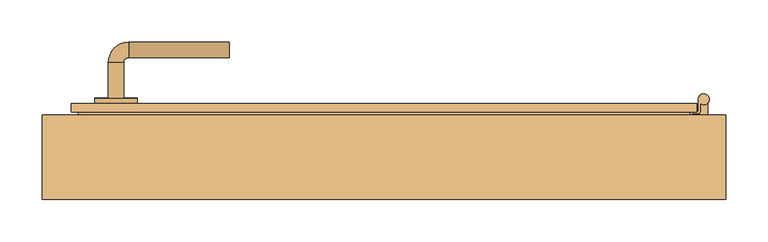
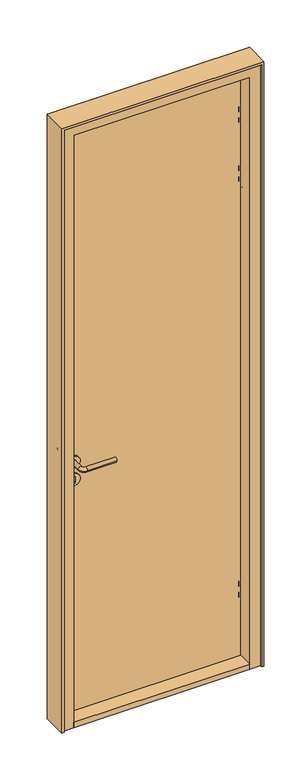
"""IFC4 building model written with IfcOpenShell, lengths in millimetres: door geometry, JW_Interior_Door_Steady_411_Single_1.0 : 790 x 1890 mm - M8 x M19 2 gray."""

from ifc_helpers import new_model, si_unit, point, frame, frame_2d, origin, place, context, project, spatial, polyline, circle_curve, ellipse_curve, trimmed, segment, composite_curve, outline, extrude, faceted_brep, source, transform, mapped, element, save
from ifc_brep_helpers import plane_surface, cylinder_surface, revolved_surface, advanced_brep


def door_d430e235(model_context):
    return source(origin(), model_context, "Body", "SolidModel", [
        advanced_brep(
        [(374.9018538, 63.3783893, 2305.5), (372.404139, 68.4990677, 2305.5), (372.404139, 54.9903905, 2305.5), (371.5949734, 54.1812249, 2305.5), (365.6129452, 54.1812249, 2305.5), (362.4001557, 50.9684354, 2305.5), (361.9114682, 41.6437223, 2305.5), (361.6497884, 36.6505746, 2305.5), (364.1463622, 36.5197347, 2305.5), (364.408042, 41.5128824, 2305.5), (364.9, 50.9, 2305.5), (365.6997148, 51.6997148, 2305.5), (371.7009982, 51.6997148, 2305.5), (374.9018538, 54.9005704, 2305.5), (374.9018538, 63.3783893, 2240.5), (374.9018538, 54.9005704, 2240.5), (371.7009982, 51.6997148, 2240.5), (365.6997148, 51.6997148, 2240.5), (364.9, 50.9, 2240.5), (364.408042, 41.5128824, 2240.5), (364.1463622, 36.5197347, 2240.5), (361.6497884, 36.6505746, 2240.5), (361.9114682, 41.6437223, 2240.5), (362.4001557, 50.9684354, 2240.5), (365.6129452, 54.1812249, 2240.5), (371.5949734, 54.1812249, 2240.5), (372.404139, 54.9903905, 2240.5), (372.404139, 68.4990677, 2240.5), (372.404139, 68.4990677, 2260.0), (374.9018538, 63.3783893, 2260.0), (374.9018538, 63.3783893, 2286.0), (372.404139, 68.4990677, 2286.0), (374.9018538, 54.9005704, 2260.0), (374.9018538, 54.9005704, 2286.0), (371.7009982, 51.6997148, 2260.0), (371.7009982, 51.6997148, 2286.0), (368.9, 51.6997148, 2260.0), (368.9, 51.6997148, 2286.0), (363.6230027, 26.5334394, 2295.5), (363.6230027, 26.5334394, 2250.5), (361.1264288, 26.6642792, 2295.5), (361.1264288, 26.6642792, 2250.5), (371.5949734, 54.1812249, 2286.0), (368.9, 54.1812249, 2286.0), (368.9, 54.1812249, 2260.0), (371.5949734, 54.1812249, 2260.0), (372.404139, 54.9903905, 2260.0), (372.404139, 54.9903905, 2286.0)],
        [
            (0, 1, circle_curve(frame((378.902064, 68.4990677, 2305.5), z_axis=(0.0, 0.0, 1.0), x_axis=(0.0, -1.0, 0.0)), 6.4979249)),
            (1, 2),
            (2, 3, circle_curve(frame((371.5949734, 54.9903905, 2305.5), z_axis=(0.0, 0.0, -1.0), x_axis=(0.0, -1.0, 0.0)), 0.8091657)),
            (3, 4),
            (4, 5, circle_curve(frame((365.6129452, 50.9684354, 2305.5), z_axis=(0.0, 0.0, 1.0), x_axis=(0.0, -1.0, 0.0)), 3.2127895)),
            (5, 6),
            (6, 7),
            (7, 8),
            (8, 9),
            (9, 10),
            (10, 11, circle_curve(frame((365.6997148, 50.9, 2305.5), z_axis=(0.0, 0.0, -1.0), x_axis=(0.0, -1.0, 0.0)), 0.7997148)),
            (11, 12),
            (12, 13, circle_curve(frame((371.7009982, 54.9005704, 2305.5), z_axis=(0.0, 0.0, 1.0), x_axis=(0.0, -1.0, 0.0)), 3.2008556)),
            (13, 0),
            (14, 15),
            (15, 16, circle_curve(frame((371.7009982, 54.9005704, 2240.5), z_axis=(0.0, 0.0, -1.0), x_axis=(0.0, -1.0, 0.0)), 3.2008556)),
            (16, 17),
            (17, 18, circle_curve(frame((365.6997148, 50.9, 2240.5), z_axis=(0.0, 0.0, 1.0), x_axis=(0.0, -1.0, 0.0)), 0.7997148)),
            (18, 19),
            (19, 20),
            (20, 21),
            (21, 22),
            (22, 23),
            (23, 24, circle_curve(frame((365.6129452, 50.9684354, 2240.5), z_axis=(0.0, 0.0, -1.0), x_axis=(0.0, -1.0, 0.0)), 3.2127895)),
            (24, 25),
            (25, 26, circle_curve(frame((371.5949734, 54.9903905, 2240.5), z_axis=(0.0, 0.0, 1.0), x_axis=(0.0, -1.0, 0.0)), 0.8091657)),
            (26, 27),
            (27, 14, circle_curve(frame((378.902064, 68.4990677, 2240.5), z_axis=(0.0, 0.0, -1.0), x_axis=(0.0, -1.0, 0.0)), 6.4979249)),
            (27, 28),
            (28, 29, circle_curve(frame((378.902064, 68.4990677, 2260.0), z_axis=(0.0, 0.0, -1.0), x_axis=(0.0, -1.0, 0.0)), 6.4979249)),
            (29, 14),
            (0, 30),
            (30, 31, circle_curve(frame((378.902064, 68.4990677, 2286.0), z_axis=(0.0, 0.0, 1.0), x_axis=(0.0, -1.0, 0.0)), 6.4979249)),
            (31, 1),
            (29, 32),
            (32, 15),
            (13, 33),
            (33, 30),
            (32, 34, circle_curve(frame((371.7009982, 54.9005704, 2260.0), z_axis=(0.0, 0.0, -1.0), x_axis=(0.0, -1.0, 0.0)), 3.2008556)),
            (34, 16),
            (12, 35),
            (35, 33, circle_curve(frame((371.7009982, 54.9005704, 2286.0), z_axis=(0.0, 0.0, 1.0), x_axis=(0.0, -1.0, 0.0)), 3.2008556)),
            (11, 17),
            (34, 36),
            (36, 37),
            (37, 35),
            (10, 18),
            (8, 38, circle_curve(frame((364.1463622, 36.5197347, 2295.5), z_axis=(0.9986295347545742, -0.05233595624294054, 0.0), x_axis=(0.05233595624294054, 0.9986295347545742, 0.0)), 10.0)),
            (38, 39),
            (39, 20, circle_curve(frame((364.1463622, 36.5197347, 2250.5), z_axis=(0.9986295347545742, -0.05233595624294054, 0.0), x_axis=(0.05233595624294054, 0.9986295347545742, 0.0)), 10.0)),
            (38, 40),
            (40, 41),
            (41, 39),
            (21, 41, circle_curve(frame((361.6497884, 36.6505746, 2250.5), z_axis=(-0.9986295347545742, 0.05233595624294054, 0.0), x_axis=(0.05233595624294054, 0.9986295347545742, 0.0)), 10.0)),
            (40, 7, circle_curve(frame((361.6497884, 36.6505746, 2295.5), z_axis=(-0.9986295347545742, 0.05233595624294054, 0.0), x_axis=(0.05233595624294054, 0.9986295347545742, 0.0)), 10.0)),
            (5, 23),
            (4, 24),
            (3, 42),
            (42, 43),
            (43, 44),
            (44, 45),
            (45, 25),
            (45, 46, circle_curve(frame((371.5949734, 54.9903905, 2260.0), z_axis=(0.0, 0.0, 1.0), x_axis=(0.0, -1.0, 0.0)), 0.8091657)),
            (46, 26),
            (2, 47),
            (47, 42, circle_curve(frame((371.5949734, 54.9903905, 2286.0), z_axis=(0.0, 0.0, -1.0), x_axis=(0.0, -1.0, 0.0)), 0.8091657)),
            (31, 47),
            (46, 28),
            (37, 43),
            (44, 36),
        ],
        [
            plane_surface(frame((374.9018538, 54.9005704, 2305.5), z_axis=(0.0, 0.0, 1.0), x_axis=(0.0, -1.0, 0.0))),
            plane_surface(frame((374.9018538, 54.9005704, 2240.5), z_axis=(0.0, 0.0, -1.0), x_axis=(0.0, 1.0, 0.0))),
            cylinder_surface(frame((378.902064, 68.4990677, 2240.5), z_axis=(0.0, 0.0, 1.0), x_axis=(0.0, -1.0, 0.0)), 6.4979249),
            plane_surface(frame((374.9018538, 63.3783893, 2305.5), z_axis=(1.0, 0.0, 0.0), x_axis=(0.0, 0.0, -1.0))),
            cylinder_surface(frame((371.7009982, 54.9005704, 2240.5), z_axis=(0.0, 0.0, 1.0), x_axis=(0.0, -1.0, 0.0)), 3.2008556),
            plane_surface(frame((371.7009982, 51.6997148, 2305.5), z_axis=(0.0, -1.0, 0.0), x_axis=(0.0, 0.0, -1.0))),
            revolved_surface(polyline([(365.6997148, 50.1002852, 2240.5), (365.6997148, 50.1002852, 2305.5)]), (365.6997148, 50.9, 2240.5), (0.0, 0.0, -1.0)),
            plane_surface(frame((364.9, 50.9, 2305.5), z_axis=(0.9986295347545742, -0.05233595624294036, 0.0), x_axis=(0.0, 0.0, -1.0))),
            plane_surface(frame((363.6230027, 26.5334394, 2305.5), z_axis=(-0.05233595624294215, -0.998629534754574, 0.0), x_axis=(0.0, 0.0, -1.0))),
            plane_surface(frame((361.1264288, 26.6642792, 2305.5), z_axis=(-0.9986295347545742, 0.05233595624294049, 0.0), x_axis=(0.0, 0.0, -1.0))),
            cylinder_surface(frame((365.6129452, 50.9684354, 2240.5), z_axis=(0.0, 0.0, 1.0), x_axis=(0.0, -1.0, 0.0)), 3.2127895),
            plane_surface(frame((365.6129452, 54.1812249, 2305.5), z_axis=(0.0, 1.0, 0.0), x_axis=(0.0, 0.0, -1.0))),
            revolved_surface(polyline([(371.5949734, 54.181224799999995, 2240.5), (371.5949734, 54.181224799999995, 2260.0)]), (371.5949734, 54.9903905, 2240.5), (0.0, 0.0, -1.0)),
            revolved_surface(polyline([(371.5949734, 54.181224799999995, 2286.0), (371.5949734, 54.181224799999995, 2305.5)]), (371.5949734, 54.9903905, 2240.5), (0.0, 0.0, -1.0)),
            plane_surface(frame((372.404139, 54.9903905, 2305.5), z_axis=(-1.0, 0.0, 0.0), x_axis=(0.0, 0.0, -1.0))),
            plane_surface(frame((386.4849846, 78.5564762, 2286.0), z_axis=(0.0, 0.0, -1.0), x_axis=(1.0, 0.0, 0.0))),
            plane_surface(frame((386.4849846, 78.5564762, 2260.0), z_axis=(0.0, 0.0, 1.0), x_axis=(-1.0, 0.0, 0.0))),
            plane_surface(frame((368.9, 48.5564762, 2286.0), z_axis=(1.0, 0.0, 0.0), x_axis=(0.0, 0.0, -1.0))),
            cylinder_surface(frame((369.1395099, 36.2580549, 2250.5), z_axis=(0.9986295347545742, -0.05233595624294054, 0.0), x_axis=(0.05233595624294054, 0.9986295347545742, 0.0)), 10.0),
            cylinder_surface(frame((369.1395099, 36.2580549, 2295.5), z_axis=(0.9986295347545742, -0.05233595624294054, 0.0), x_axis=(0.05233595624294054, 0.9986295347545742, 0.0)), 10.0),
        ],
        [
            (0, [[1, 2, 3, 4, 5, 6, 7, 8, 9, 10, 11, 12, 13, 14]]),
            (1, [[15, 16, 17, 18, 19, 20, 21, 22, 23, 24, 25, 26, 27, 28]]),
            (2, [[29, 30, 31, -28]]),
            (2, [[32, 33, 34, -1]]),
            (3, [[-31, 35, 36, -15]]),
            (3, [[37, 38, -32, -14]]),
            (4, [[-36, 39, 40, -16]]),
            (4, [[41, 42, -37, -13]]),
            (5, [[43, -17, -40, 44, 45, 46, -41, -12]]),
            (6, [[47, -18, -43, -11]]),
            (7, [[-10, -9, 48, 49, 50, -20, -19, -47]]),
            (8, [[51, 52, 53, -49]]),
            (9, [[-23, -22, 54, -52, 55, -7, -6, 56]]),
            (10, [[57, -24, -56, -5]]),
            (11, [[58, 59, 60, 61, 62, -25, -57, -4]]),
            (12, [[-62, 63, 64, -26]]),
            (13, [[65, 66, -58, -3]]),
            (14, [[-34, 67, -65, -2]]),
            (14, [[-64, 68, -29, -27]]),
            (15, [[-59, -66, -67, -33, -38, -42, -46, 69]]),
            (16, [[-44, -39, -35, -30, -68, -63, -61, 70]]),
            (17, [[-45, -70, -60, -69]]),
            (18, [[-50, -53, -54, -21]]),
            (19, [[-55, -51, -48, -8]]),
        ],
    ),
        extrude(outline(composite_curve([segment(trimmed(circle_curve(frame_2d((378.9, 68.5)), 3.75), [point((375.15, 68.5))], [point((382.65, 68.5))], False, "CARTESIAN"), True, "CONTINUOUS"), segment(trimmed(circle_curve(frame_2d((378.9, 68.5)), 3.75), [point((382.65, 68.5))], [point((375.15, 68.5))], False, "CARTESIAN"), True, "CONTINUOUS")], self_intersect=False)), frame((0.0, 0.0, 2240.5), z_axis=(0.0, 0.0, 1.0), x_axis=(1.0, 0.0, 0.0)), (0.0, 0.0, 1.0), 65.0),
        extrude(outline(composite_curve([segment(polyline([(383.9, 64.3466881), (383.9, 50.0), (373.9, 50.0), (373.9, 64.3466881)]), True, "CONTINUOUS"), segment(trimmed(circle_curve(frame_2d((378.9, 68.5)), 6.5), [point((373.9, 64.3466881))], [point((383.9, 64.3466881))], False, "CARTESIAN"), True, "CONTINUOUS")], self_intersect=False)), frame((0.0, 0.0, 2263.0), z_axis=(0.0, 0.0, 1.0), x_axis=(1.0, 0.0, 0.0)), (0.0, 0.0, 1.0), 20.0),
        advanced_brep(
        [(374.9018538, 63.3783893, 2055.5), (372.404139, 68.4990677, 2055.5), (372.404139, 54.9903905, 2055.5), (371.5949734, 54.1812249, 2055.5), (365.6129452, 54.1812249, 2055.5), (362.4001557, 50.9684354, 2055.5), (361.9114682, 41.6437223, 2055.5), (361.6497884, 36.6505746, 2055.5), (364.1463622, 36.5197347, 2055.5), (364.408042, 41.5128824, 2055.5), (364.9, 50.9, 2055.5), (365.6997148, 51.6997148, 2055.5), (371.7009982, 51.6997148, 2055.5), (374.9018538, 54.9005704, 2055.5), (374.9018538, 63.3783893, 1990.5), (374.9018538, 54.9005704, 1990.5), (371.7009982, 51.6997148, 1990.5), (365.6997148, 51.6997148, 1990.5), (364.9, 50.9, 1990.5), (364.408042, 41.5128824, 1990.5), (364.1463622, 36.5197347, 1990.5), (361.6497884, 36.6505746, 1990.5), (361.9114682, 41.6437223, 1990.5), (362.4001557, 50.9684354, 1990.5), (365.6129452, 54.1812249, 1990.5), (371.5949734, 54.1812249, 1990.5), (372.404139, 54.9903905, 1990.5), (372.404139, 68.4990677, 1990.5), (372.404139, 68.4990677, 2010.0), (374.9018538, 63.3783893, 2010.0), (374.9018538, 63.3783893, 2036.0), (372.404139, 68.4990677, 2036.0), (374.9018538, 54.9005704, 2010.0), (374.9018538, 54.9005704, 2036.0), (371.7009982, 51.6997148, 2010.0), (371.7009982, 51.6997148, 2036.0), (368.9, 51.6997148, 2010.0), (368.9, 51.6997148, 2036.0), (363.6230027, 26.5334394, 2045.5), (363.6230027, 26.5334394, 2000.5), (361.1264288, 26.6642792, 2045.5), (361.1264288, 26.6642792, 2000.5), (371.5949734, 54.1812249, 2036.0), (368.9, 54.1812249, 2036.0), (368.9, 54.1812249, 2010.0), (371.5949734, 54.1812249, 2010.0), (372.404139, 54.9903905, 2010.0), (372.404139, 54.9903905, 2036.0)],
        [
            (0, 1, circle_curve(frame((378.902064, 68.4990677, 2055.5), z_axis=(0.0, 0.0, 1.0), x_axis=(0.0, -1.0, 0.0)), 6.4979249)),
            (1, 2),
            (2, 3, circle_curve(frame((371.5949734, 54.9903905, 2055.5), z_axis=(0.0, 0.0, -1.0), x_axis=(0.0, -1.0, 0.0)), 0.8091657)),
            (3, 4),
            (4, 5, circle_curve(frame((365.6129452, 50.9684354, 2055.5), z_axis=(0.0, 0.0, 1.0), x_axis=(0.0, -1.0, 0.0)), 3.2127895)),
            (5, 6),
            (6, 7),
            (7, 8),
            (8, 9),
            (9, 10),
            (10, 11, circle_curve(frame((365.6997148, 50.9, 2055.5), z_axis=(0.0, 0.0, -1.0), x_axis=(0.0, -1.0, 0.0)), 0.7997148)),
            (11, 12),
            (12, 13, circle_curve(frame((371.7009982, 54.9005704, 2055.5), z_axis=(0.0, 0.0, 1.0), x_axis=(0.0, -1.0, 0.0)), 3.2008556)),
            (13, 0),
            (14, 15),
            (15, 16, circle_curve(frame((371.7009982, 54.9005704, 1990.5), z_axis=(0.0, 0.0, -1.0), x_axis=(0.0, -1.0, 0.0)), 3.2008556)),
            (16, 17),
            (17, 18, circle_curve(frame((365.6997148, 50.9, 1990.5), z_axis=(0.0, 0.0, 1.0), x_axis=(0.0, -1.0, 0.0)), 0.7997148)),
            (18, 19),
            (19, 20),
            (20, 21),
            (21, 22),
            (22, 23),
            (23, 24, circle_curve(frame((365.6129452, 50.9684354, 1990.5), z_axis=(0.0, 0.0, -1.0), x_axis=(0.0, -1.0, 0.0)), 3.2127895)),
            (24, 25),
            (25, 26, circle_curve(frame((371.5949734, 54.9903905, 1990.5), z_axis=(0.0, 0.0, 1.0), x_axis=(0.0, -1.0, 0.0)), 0.8091657)),
            (26, 27),
            (27, 14, circle_curve(frame((378.902064, 68.4990677, 1990.5), z_axis=(0.0, 0.0, -1.0), x_axis=(0.0, -1.0, 0.0)), 6.4979249)),
            (27, 28),
            (28, 29, circle_curve(frame((378.902064, 68.4990677, 2010.0), z_axis=(0.0, 0.0, -1.0), x_axis=(0.0, -1.0, 0.0)), 6.4979249)),
            (29, 14),
            (0, 30),
            (30, 31, circle_curve(frame((378.902064, 68.4990677, 2036.0), z_axis=(0.0, 0.0, 1.0), x_axis=(0.0, -1.0, 0.0)), 6.4979249)),
            (31, 1),
            (29, 32),
            (32, 15),
            (13, 33),
            (33, 30),
            (32, 34, circle_curve(frame((371.7009982, 54.9005704, 2010.0), z_axis=(0.0, 0.0, -1.0), x_axis=(0.0, -1.0, 0.0)), 3.2008556)),
            (34, 16),
            (12, 35),
            (35, 33, circle_curve(frame((371.7009982, 54.9005704, 2036.0), z_axis=(0.0, 0.0, 1.0), x_axis=(0.0, -1.0, 0.0)), 3.2008556)),
            (11, 17),
            (34, 36),
            (36, 37),
            (37, 35),
            (10, 18),
            (8, 38, circle_curve(frame((364.1463622, 36.5197347, 2045.5), z_axis=(0.9986295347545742, -0.05233595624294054, 0.0), x_axis=(0.05233595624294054, 0.9986295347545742, 0.0)), 10.0)),
            (38, 39),
            (39, 20, circle_curve(frame((364.1463622, 36.5197347, 2000.5), z_axis=(0.9986295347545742, -0.05233595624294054, 0.0), x_axis=(0.05233595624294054, 0.9986295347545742, 0.0)), 10.0)),
            (38, 40),
            (40, 41),
            (41, 39),
            (21, 41, circle_curve(frame((361.6497884, 36.6505746, 2000.5), z_axis=(-0.9986295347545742, 0.05233595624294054, 0.0), x_axis=(0.05233595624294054, 0.9986295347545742, 0.0)), 10.0)),
            (40, 7, circle_curve(frame((361.6497884, 36.6505746, 2045.5), z_axis=(-0.9986295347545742, 0.05233595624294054, 0.0), x_axis=(0.05233595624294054, 0.9986295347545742, 0.0)), 10.0)),
            (5, 23),
            (4, 24),
            (3, 42),
            (42, 43),
            (43, 44),
            (44, 45),
            (45, 25),
            (45, 46, circle_curve(frame((371.5949734, 54.9903905, 2010.0), z_axis=(0.0, 0.0, 1.0), x_axis=(0.0, -1.0, 0.0)), 0.8091657)),
            (46, 26),
            (2, 47),
            (47, 42, circle_curve(frame((371.5949734, 54.9903905, 2036.0), z_axis=(0.0, 0.0, -1.0), x_axis=(0.0, -1.0, 0.0)), 0.8091657)),
            (31, 47),
            (46, 28),
            (37, 43),
            (44, 36),
        ],
        [
            plane_surface(frame((374.9018538, 54.9005704, 2055.5), z_axis=(0.0, 0.0, 1.0), x_axis=(0.0, -1.0, 0.0))),
            plane_surface(frame((374.9018538, 54.9005704, 1990.5), z_axis=(0.0, 0.0, -1.0), x_axis=(0.0, 1.0, 0.0))),
            cylinder_surface(frame((378.902064, 68.4990677, 1990.5), z_axis=(0.0, 0.0, 1.0), x_axis=(0.0, -1.0, 0.0)), 6.4979249),
            plane_surface(frame((374.9018538, 63.3783893, 2055.5), z_axis=(1.0, 0.0, 0.0), x_axis=(0.0, 0.0, -1.0))),
            cylinder_surface(frame((371.7009982, 54.9005704, 1990.5), z_axis=(0.0, 0.0, 1.0), x_axis=(0.0, -1.0, 0.0)), 3.2008556),
            plane_surface(frame((371.7009982, 51.6997148, 2055.5), z_axis=(0.0, -1.0, 0.0), x_axis=(0.0, 0.0, -1.0))),
            revolved_surface(polyline([(365.6997148, 50.1002852, 1990.5), (365.6997148, 50.1002852, 2055.5)]), (365.6997148, 50.9, 1990.5), (0.0, 0.0, -1.0)),
            plane_surface(frame((364.9, 50.9, 2055.5), z_axis=(0.9986295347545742, -0.05233595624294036, 0.0), x_axis=(0.0, 0.0, -1.0))),
            plane_surface(frame((363.6230027, 26.5334394, 2055.5), z_axis=(-0.05233595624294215, -0.998629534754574, 0.0), x_axis=(0.0, 0.0, -1.0))),
            plane_surface(frame((361.1264288, 26.6642792, 2055.5), z_axis=(-0.9986295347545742, 0.05233595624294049, 0.0), x_axis=(0.0, 0.0, -1.0))),
            cylinder_surface(frame((365.6129452, 50.9684354, 1990.5), z_axis=(0.0, 0.0, 1.0), x_axis=(0.0, -1.0, 0.0)), 3.2127895),
            plane_surface(frame((365.6129452, 54.1812249, 2055.5), z_axis=(0.0, 1.0, 0.0), x_axis=(0.0, 0.0, -1.0))),
            revolved_surface(polyline([(371.5949734, 54.181224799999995, 1990.5), (371.5949734, 54.181224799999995, 2010.0)]), (371.5949734, 54.9903905, 1990.5), (0.0, 0.0, -1.0)),
            revolved_surface(polyline([(371.5949734, 54.181224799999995, 2036.0), (371.5949734, 54.181224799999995, 2055.5)]), (371.5949734, 54.9903905, 1990.5), (0.0, 0.0, -1.0)),
            plane_surface(frame((372.404139, 54.9903905, 2055.5), z_axis=(-1.0, 0.0, 0.0), x_axis=(0.0, 0.0, -1.0))),
            plane_surface(frame((386.4849846, 78.5564762, 2036.0), z_axis=(0.0, 0.0, -1.0), x_axis=(1.0, 0.0, 0.0))),
            plane_surface(frame((386.4849846, 78.5564762, 2010.0), z_axis=(0.0, 0.0, 1.0), x_axis=(-1.0, 0.0, 0.0))),
            plane_surface(frame((368.9, 48.5564762, 2036.0), z_axis=(1.0, 0.0, 0.0), x_axis=(0.0, 0.0, -1.0))),
            cylinder_surface(frame((369.1395099, 36.2580549, 2000.5), z_axis=(0.9986295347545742, -0.05233595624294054, 0.0), x_axis=(0.05233595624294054, 0.9986295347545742, 0.0)), 10.0),
            cylinder_surface(frame((369.1395099, 36.2580549, 2045.5), z_axis=(0.9986295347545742, -0.05233595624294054, 0.0), x_axis=(0.05233595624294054, 0.9986295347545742, 0.0)), 10.0),
        ],
        [
            (0, [[1, 2, 3, 4, 5, 6, 7, 8, 9, 10, 11, 12, 13, 14]]),
            (1, [[15, 16, 17, 18, 19, 20, 21, 22, 23, 24, 25, 26, 27, 28]]),
            (2, [[29, 30, 31, -28]]),
            (2, [[32, 33, 34, -1]]),
            (3, [[-31, 35, 36, -15]]),
            (3, [[37, 38, -32, -14]]),
            (4, [[-36, 39, 40, -16]]),
            (4, [[41, 42, -37, -13]]),
            (5, [[43, -17, -40, 44, 45, 46, -41, -12]]),
            (6, [[47, -18, -43, -11]]),
            (7, [[-10, -9, 48, 49, 50, -20, -19, -47]]),
            (8, [[51, 52, 53, -49]]),
            (9, [[-23, -22, 54, -52, 55, -7, -6, 56]]),
            (10, [[57, -24, -56, -5]]),
            (11, [[58, 59, 60, 61, 62, -25, -57, -4]]),
            (12, [[-62, 63, 64, -26]]),
            (13, [[65, 66, -58, -3]]),
            (14, [[-34, 67, -65, -2]]),
            (14, [[-64, 68, -29, -27]]),
            (15, [[-59, -66, -67, -33, -38, -42, -46, 69]]),
            (16, [[-44, -39, -35, -30, -68, -63, -61, 70]]),
            (17, [[-45, -70, -60, -69]]),
            (18, [[-50, -53, -54, -21]]),
            (19, [[-55, -51, -48, -8]]),
        ],
    ),
        extrude(outline(composite_curve([segment(trimmed(circle_curve(frame_2d((378.9, 68.5)), 3.75), [point((375.15, 68.5))], [point((382.65, 68.5))], False, "CARTESIAN"), True, "CONTINUOUS"), segment(trimmed(circle_curve(frame_2d((378.9, 68.5)), 3.75), [point((382.65, 68.5))], [point((375.15, 68.5))], False, "CARTESIAN"), True, "CONTINUOUS")], self_intersect=False)), frame((0.0, 0.0, 1990.5), z_axis=(0.0, 0.0, 1.0), x_axis=(1.0, 0.0, 0.0)), (0.0, 0.0, 1.0), 65.0),
        extrude(outline(composite_curve([segment(polyline([(383.9, 64.3466881), (383.9, 50.0), (373.9, 50.0), (373.9, 64.3466881)]), True, "CONTINUOUS"), segment(trimmed(circle_curve(frame_2d((378.9, 68.5)), 6.5), [point((373.9, 64.3466881))], [point((383.9, 64.3466881))], False, "CARTESIAN"), True, "CONTINUOUS")], self_intersect=False)), frame((0.0, 0.0, 2013.0), z_axis=(0.0, 0.0, 1.0), x_axis=(1.0, 0.0, 0.0)), (0.0, 0.0, 1.0), 20.0),
        advanced_brep(
        [(374.9018538, 63.3783893, 295.5), (372.404139, 68.4990677, 295.5), (372.404139, 54.9903905, 295.5), (371.5949734, 54.1812249, 295.5), (365.6129452, 54.1812249, 295.5), (362.4001557, 50.9684354, 295.5), (361.9114682, 41.6437223, 295.5), (361.6497884, 36.6505746, 295.5), (364.1463622, 36.5197347, 295.5), (364.408042, 41.5128824, 295.5), (364.9, 50.9, 295.5), (365.6997148, 51.6997148, 295.5), (371.7009982, 51.6997148, 295.5), (374.9018538, 54.9005704, 295.5), (374.9018538, 63.3783893, 230.5), (374.9018538, 54.9005704, 230.5), (371.7009982, 51.6997148, 230.5), (365.6997148, 51.6997148, 230.5), (364.9, 50.9, 230.5), (364.408042, 41.5128824, 230.5), (364.1463622, 36.5197347, 230.5), (361.6497884, 36.6505746, 230.5), (361.9114682, 41.6437223, 230.5), (362.4001557, 50.9684354, 230.5), (365.6129452, 54.1812249, 230.5), (371.5949734, 54.1812249, 230.5), (372.404139, 54.9903905, 230.5), (372.404139, 68.4990677, 230.5), (372.404139, 68.4990677, 250.0), (374.9018538, 63.3783893, 250.0), (374.9018538, 63.3783893, 276.0), (372.404139, 68.4990677, 276.0), (374.9018538, 54.9005704, 250.0), (374.9018538, 54.9005704, 276.0), (371.7009982, 51.6997148, 250.0), (371.7009982, 51.6997148, 276.0), (368.9, 51.6997148, 250.0), (368.9, 51.6997148, 276.0), (363.6230027, 26.5334394, 285.5), (363.6230027, 26.5334394, 240.5), (361.1264288, 26.6642792, 285.5), (361.1264288, 26.6642792, 240.5), (371.5949734, 54.1812249, 276.0), (368.9, 54.1812249, 276.0), (368.9, 54.1812249, 250.0), (371.5949734, 54.1812249, 250.0), (372.404139, 54.9903905, 250.0), (372.404139, 54.9903905, 276.0)],
        [
            (0, 1, circle_curve(frame((378.902064, 68.4990677, 295.5), z_axis=(0.0, 0.0, 1.0), x_axis=(0.0, -1.0, 0.0)), 6.4979249)),
            (1, 2),
            (2, 3, circle_curve(frame((371.5949734, 54.9903905, 295.5), z_axis=(0.0, 0.0, -1.0), x_axis=(0.0, -1.0, 0.0)), 0.8091657)),
            (3, 4),
            (4, 5, circle_curve(frame((365.6129452, 50.9684354, 295.5), z_axis=(0.0, 0.0, 1.0), x_axis=(0.0, -1.0, 0.0)), 3.2127895)),
            (5, 6),
            (6, 7),
            (7, 8),
            (8, 9),
            (9, 10),
            (10, 11, circle_curve(frame((365.6997148, 50.9, 295.5), z_axis=(0.0, 0.0, -1.0), x_axis=(0.0, -1.0, 0.0)), 0.7997148)),
            (11, 12),
            (12, 13, circle_curve(frame((371.7009982, 54.9005704, 295.5), z_axis=(0.0, 0.0, 1.0), x_axis=(0.0, -1.0, 0.0)), 3.2008556)),
            (13, 0),
            (14, 15),
            (15, 16, circle_curve(frame((371.7009982, 54.9005704, 230.5), z_axis=(0.0, 0.0, -1.0), x_axis=(0.0, -1.0, 0.0)), 3.2008556)),
            (16, 17),
            (17, 18, circle_curve(frame((365.6997148, 50.9, 230.5), z_axis=(0.0, 0.0, 1.0), x_axis=(0.0, -1.0, 0.0)), 0.7997148)),
            (18, 19),
            (19, 20),
            (20, 21),
            (21, 22),
            (22, 23),
            (23, 24, circle_curve(frame((365.6129452, 50.9684354, 230.5), z_axis=(0.0, 0.0, -1.0), x_axis=(0.0, -1.0, 0.0)), 3.2127895)),
            (24, 25),
            (25, 26, circle_curve(frame((371.5949734, 54.9903905, 230.5), z_axis=(0.0, 0.0, 1.0), x_axis=(0.0, -1.0, 0.0)), 0.8091657)),
            (26, 27),
            (27, 14, circle_curve(frame((378.902064, 68.4990677, 230.5), z_axis=(0.0, 0.0, -1.0), x_axis=(0.0, -1.0, 0.0)), 6.4979249)),
            (27, 28),
            (28, 29, circle_curve(frame((378.902064, 68.4990677, 250.0), z_axis=(0.0, 0.0, -1.0), x_axis=(0.0, -1.0, 0.0)), 6.4979249)),
            (29, 14),
            (0, 30),
            (30, 31, circle_curve(frame((378.902064, 68.4990677, 276.0), z_axis=(0.0, 0.0, 1.0), x_axis=(0.0, -1.0, 0.0)), 6.4979249)),
            (31, 1),
            (29, 32),
            (32, 15),
            (13, 33),
            (33, 30),
            (32, 34, circle_curve(frame((371.7009982, 54.9005704, 250.0), z_axis=(0.0, 0.0, -1.0), x_axis=(0.0, -1.0, 0.0)), 3.2008556)),
            (34, 16),
            (12, 35),
            (35, 33, circle_curve(frame((371.7009982, 54.9005704, 276.0), z_axis=(0.0, 0.0, 1.0), x_axis=(0.0, -1.0, 0.0)), 3.2008556)),
            (11, 17),
            (34, 36),
            (36, 37),
            (37, 35),
            (10, 18),
            (8, 38, circle_curve(frame((364.1463622, 36.5197347, 285.5), z_axis=(0.9986295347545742, -0.05233595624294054, 0.0), x_axis=(0.05233595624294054, 0.9986295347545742, 0.0)), 10.0)),
            (38, 39),
            (39, 20, circle_curve(frame((364.1463622, 36.5197347, 240.5), z_axis=(0.9986295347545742, -0.05233595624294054, 0.0), x_axis=(0.05233595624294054, 0.9986295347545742, 0.0)), 10.0)),
            (38, 40),
            (40, 41),
            (41, 39),
            (21, 41, circle_curve(frame((361.6497884, 36.6505746, 240.5), z_axis=(-0.9986295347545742, 0.05233595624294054, 0.0), x_axis=(0.05233595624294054, 0.9986295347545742, 0.0)), 10.0)),
            (40, 7, circle_curve(frame((361.6497884, 36.6505746, 285.5), z_axis=(-0.9986295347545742, 0.05233595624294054, 0.0), x_axis=(0.05233595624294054, 0.9986295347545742, 0.0)), 10.0)),
            (5, 23),
            (4, 24),
            (3, 42),
            (42, 43),
            (43, 44),
            (44, 45),
            (45, 25),
            (45, 46, circle_curve(frame((371.5949734, 54.9903905, 250.0), z_axis=(0.0, 0.0, 1.0), x_axis=(0.0, -1.0, 0.0)), 0.8091657)),
            (46, 26),
            (2, 47),
            (47, 42, circle_curve(frame((371.5949734, 54.9903905, 276.0), z_axis=(0.0, 0.0, -1.0), x_axis=(0.0, -1.0, 0.0)), 0.8091657)),
            (31, 47),
            (46, 28),
            (37, 43),
            (44, 36),
        ],
        [
            plane_surface(frame((374.9018538, 54.9005704, 295.5), z_axis=(0.0, 0.0, 1.0), x_axis=(0.0, -1.0, 0.0))),
            plane_surface(frame((374.9018538, 54.9005704, 230.5), z_axis=(0.0, 0.0, -1.0), x_axis=(0.0, 1.0, 0.0))),
            cylinder_surface(frame((378.902064, 68.4990677, 230.5), z_axis=(0.0, 0.0, 1.0), x_axis=(0.0, -1.0, 0.0)), 6.4979249),
            plane_surface(frame((374.9018538, 63.3783893, 295.5), z_axis=(1.0, 0.0, 0.0), x_axis=(0.0, 0.0, -1.0))),
            cylinder_surface(frame((371.7009982, 54.9005704, 230.5), z_axis=(0.0, 0.0, 1.0), x_axis=(0.0, -1.0, 0.0)), 3.2008556),
            plane_surface(frame((371.7009982, 51.6997148, 295.5), z_axis=(0.0, -1.0, 0.0), x_axis=(0.0, 0.0, -1.0))),
            revolved_surface(polyline([(365.6997148, 50.1002852, 230.5), (365.6997148, 50.1002852, 295.5)]), (365.6997148, 50.9, 230.5), (0.0, 0.0, -1.0)),
            plane_surface(frame((364.9, 50.9, 295.5), z_axis=(0.9986295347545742, -0.05233595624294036, 0.0), x_axis=(0.0, 0.0, -1.0))),
            plane_surface(frame((363.6230027, 26.5334394, 295.5), z_axis=(-0.05233595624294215, -0.998629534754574, 0.0), x_axis=(0.0, 0.0, -1.0))),
            plane_surface(frame((361.1264288, 26.6642792, 295.5), z_axis=(-0.9986295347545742, 0.05233595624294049, 0.0), x_axis=(0.0, 0.0, -1.0))),
            cylinder_surface(frame((365.6129452, 50.9684354, 230.5), z_axis=(0.0, 0.0, 1.0), x_axis=(0.0, -1.0, 0.0)), 3.2127895),
            plane_surface(frame((365.6129452, 54.1812249, 295.5), z_axis=(0.0, 1.0, 0.0), x_axis=(0.0, 0.0, -1.0))),
            revolved_surface(polyline([(371.5949734, 54.181224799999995, 230.5), (371.5949734, 54.181224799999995, 250.0)]), (371.5949734, 54.9903905, 230.5), (0.0, 0.0, -1.0)),
            revolved_surface(polyline([(371.5949734, 54.181224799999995, 276.0), (371.5949734, 54.181224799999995, 295.5)]), (371.5949734, 54.9903905, 230.5), (0.0, 0.0, -1.0)),
            plane_surface(frame((372.404139, 54.9903905, 295.5), z_axis=(-1.0, 0.0, 0.0), x_axis=(0.0, 0.0, -1.0))),
            plane_surface(frame((386.4849846, 78.5564762, 276.0), z_axis=(0.0, 0.0, -1.0), x_axis=(1.0, 0.0, 0.0))),
            plane_surface(frame((386.4849846, 78.5564762, 250.0), z_axis=(0.0, 0.0, 1.0), x_axis=(-1.0, 0.0, 0.0))),
            plane_surface(frame((368.9, 48.5564762, 276.0), z_axis=(1.0, 0.0, 0.0), x_axis=(0.0, 0.0, -1.0))),
            cylinder_surface(frame((369.1395099, 36.2580549, 240.5), z_axis=(0.9986295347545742, -0.05233595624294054, 0.0), x_axis=(0.05233595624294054, 0.9986295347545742, 0.0)), 10.0),
            cylinder_surface(frame((369.1395099, 36.2580549, 285.5), z_axis=(0.9986295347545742, -0.05233595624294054, 0.0), x_axis=(0.05233595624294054, 0.9986295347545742, 0.0)), 10.0),
        ],
        [
            (0, [[1, 2, 3, 4, 5, 6, 7, 8, 9, 10, 11, 12, 13, 14]]),
            (1, [[15, 16, 17, 18, 19, 20, 21, 22, 23, 24, 25, 26, 27, 28]]),
            (2, [[29, 30, 31, -28]]),
            (2, [[32, 33, 34, -1]]),
            (3, [[-31, 35, 36, -15]]),
            (3, [[37, 38, -32, -14]]),
            (4, [[-36, 39, 40, -16]]),
            (4, [[41, 42, -37, -13]]),
            (5, [[43, -17, -40, 44, 45, 46, -41, -12]]),
            (6, [[47, -18, -43, -11]]),
            (7, [[-10, -9, 48, 49, 50, -20, -19, -47]]),
            (8, [[51, 52, 53, -49]]),
            (9, [[-23, -22, 54, -52, 55, -7, -6, 56]]),
            (10, [[57, -24, -56, -5]]),
            (11, [[58, 59, 60, 61, 62, -25, -57, -4]]),
            (12, [[-62, 63, 64, -26]]),
            (13, [[65, 66, -58, -3]]),
            (14, [[-34, 67, -65, -2]]),
            (14, [[-64, 68, -29, -27]]),
            (15, [[-59, -66, -67, -33, -38, -42, -46, 69]]),
            (16, [[-44, -39, -35, -30, -68, -63, -61, 70]]),
            (17, [[-45, -70, -60, -69]]),
            (18, [[-50, -53, -54, -21]]),
            (19, [[-55, -51, -48, -8]]),
        ],
    ),
        extrude(outline(composite_curve([segment(trimmed(circle_curve(frame_2d((378.9, 68.5)), 3.75), [point((375.15, 68.5))], [point((382.65, 68.5))], False, "CARTESIAN"), True, "CONTINUOUS"), segment(trimmed(circle_curve(frame_2d((378.9, 68.5)), 3.75), [point((382.65, 68.5))], [point((375.15, 68.5))], False, "CARTESIAN"), True, "CONTINUOUS")], self_intersect=False)), frame((0.0, 0.0, 230.5), z_axis=(0.0, 0.0, 1.0), x_axis=(1.0, 0.0, 0.0)), (0.0, 0.0, 1.0), 65.0),
        extrude(outline(composite_curve([segment(polyline([(383.9, 64.3466881), (383.9, 50.0), (373.9, 50.0), (373.9, 64.3466881)]), True, "CONTINUOUS"), segment(trimmed(circle_curve(frame_2d((378.9, 68.5)), 6.5), [point((373.9, 64.3466881))], [point((383.9, 64.3466881))], False, "CARTESIAN"), True, "CONTINUOUS")], self_intersect=False)), frame((0.0, 0.0, 253.0), z_axis=(0.0, 0.0, 1.0), x_axis=(1.0, 0.0, 0.0)), (0.0, 0.0, 1.0), 20.0),
        faceted_brep([(-395.0, -42.0, 0.0), (-395.0, 50.0, 0.0), (-365.0, 50.0, 0.0), (-365.0, 20.0, 0.0), (-353.0, 20.0, 0.0), (-353.0, -42.0, 0.0), (-395.0, -42.0, 2550.0), (-395.0, 50.0, 2550.0), (395.0, 50.0, 2550.0), (395.0, 50.0, 0.0), (365.0, 50.0, 0.0), (365.0, 50.0, 2520.0), (-365.0, 50.0, 2520.0), (-365.0, 20.0, 2520.0), (365.0, 20.0, 2520.0), (365.0, 20.0, 0.0), (353.0, 20.0, 0.0), (353.0, 20.0, 2508.0), (-353.0, 20.0, 2508.0), (-353.0, -42.0, 2508.0), (353.0, -42.0, 2508.0), (353.0, -42.0, 0.0), (395.0, -42.0, 0.0), (395.0, -42.0, 2550.0)], [[[0, 1, 2, 3, 4, 5]], [[1, 0, 6, 7]], [[2, 1, 7, 8, 9, 10, 11, 12]], [[3, 2, 12, 13]], [[4, 3, 13, 14, 15, 16, 17, 18]], [[5, 4, 18, 19]], [[0, 5, 19, 20, 21, 22, 23, 6]], [[8, 23, 22, 9]], [[22, 21, 16, 15, 10, 9]], [[14, 11, 10, 15]], [[20, 17, 16, 21]], [[7, 6, 23, 8]], [[13, 12, 11, 14]], [[19, 18, 17, 20]]]),
        faceted_brep([(365.0, 50.0, 0.0), (365.0, 50.0, 15.0), (365.0, 20.0, 15.0), (365.0, 20.0, 0.0), (-365.0, 20.0, 15.0), (-365.0, 50.0, 15.0), (-365.0, 50.0, 0.0), (-365.0, 20.0, 0.0), (353.0, 20.0, 0.0), (353.0, -42.0, 0.0), (-353.0, -42.0, 0.0), (-353.0, 20.0, 0.0), (-353.0, 20.0, 15.0), (353.0, 20.0, 15.0), (-353.0, 20.0, 22.0), (353.0, 20.0, 22.0), (-353.0, -42.0, 22.0), (353.0, -42.0, 22.0)], [[[0, 1, 2, 3]], [[4, 5, 6, 7]], [[6, 0, 3, 8, 9, 10, 11, 7]], [[1, 0, 6, 5]], [[2, 1, 5, 4, 12, 13]], [[13, 12, 14, 15]], [[15, 14, 16, 17]], [[10, 9, 17, 16]], [[11, 12, 4, 7]], [[12, 11, 10, 16, 14]], [[8, 13, 15, 17, 9]], [[13, 8, 3, 2]]]),
        extrude(outline(composite_curve([segment(trimmed(circle_curve(frame_2d((1001.0, -317.5)), 25.0), [point((1001.0, -292.5))], [point((1001.0, -342.5))], False, "CARTESIAN"), True, "CONTINUOUS"), segment(trimmed(circle_curve(frame_2d((1001.0, -317.5)), 25.0), [point((1001.0, -342.5))], [point((1001.0, -292.5))], False, "CARTESIAN"), True, "CONTINUOUS")], self_intersect=False), holes=[composite_curve([segment(trimmed(circle_curve(frame_2d((1012.243411, -317.5)), 4.0), [point((1012.243411, -321.5))], [point((1012.243411, -313.5))], True, "CARTESIAN"), True, "CONTINUOUS"), segment(polyline([(1012.243411, -313.5), (989.756589, -313.5)]), True, "CONTINUOUS"), segment(trimmed(circle_curve(frame_2d((989.756589, -317.5)), 4.0), [point((989.756589, -313.5))], [point((989.756589, -321.5))], True, "CARTESIAN"), True, "CONTINUOUS"), segment(polyline([(989.756589, -321.5), (1012.243411, -321.5)]), True, "CONTINUOUS")], self_intersect=False)]), frame((0.0, 16.5, 0.0), z_axis=(0.0, 1.0, 0.0), x_axis=(0.0, 0.0, 1.0)), (0.0, 0.0, 1.0), 7.0),
        extrude(outline(composite_curve([segment(trimmed(circle_curve(frame_2d((1001.0, -317.5)), 25.0), [point((1001.0, -292.5))], [point((1001.0, -342.5))], False, "CARTESIAN"), True, "CONTINUOUS"), segment(trimmed(circle_curve(frame_2d((1001.0, -317.5)), 25.0), [point((1001.0, -342.5))], [point((1001.0, -292.5))], False, "CARTESIAN"), True, "CONTINUOUS")], self_intersect=False), holes=[composite_curve([segment(polyline([(989.756589, -321.5), (1012.243411, -321.5)]), True, "CONTINUOUS"), segment(trimmed(circle_curve(frame_2d((1012.243411, -317.5)), 4.0), [point((1012.243411, -321.5))], [point((1012.243411, -313.5))], True, "CARTESIAN"), True, "CONTINUOUS"), segment(polyline([(1012.243411, -313.5), (989.756589, -313.5)]), True, "CONTINUOUS"), segment(trimmed(circle_curve(frame_2d((989.756589, -317.5)), 4.0), [point((989.756589, -313.5))], [point((989.756589, -321.5))], True, "CARTESIAN"), True, "CONTINUOUS")], self_intersect=False)]), frame((0.0, 63.5, 0.0), z_axis=(0.0, 1.0, 0.0), x_axis=(0.0, 0.0, 1.0)), (0.0, 0.0, 1.0), 7.0),
        advanced_brep(
        [(-342.5, 17.5, 1075.0), (-292.5, 17.5, 1075.0), (-308.5346073, 17.5, 1075.0), (-326.4653927, 17.5, 1075.0), (-342.5, 23.5, 1075.0), (-292.5, 23.5, 1075.0), (-326.4653927, -25.4627146, 1075.0), (-308.5346073, -25.4627146, 1075.0), (-302.5, -49.4281073, 1075.0), (-302.5, -31.4973219, 1075.0), (-183.5, -31.4973219, 1075.0), (-183.5, -49.4281073, 1075.0)],
        [
            (0, 1, circle_curve(frame((-317.5, 17.5, 1075.0), z_axis=(0.0, -1.0, 0.0), x_axis=(1.0, 0.0, 0.0)), 25.0)),
            (1, 0, circle_curve(frame((-317.5, 17.5, 1075.0), z_axis=(0.0, -1.0, 0.0), x_axis=(1.0, 0.0, 0.0)), 25.0)),
            (2, 3, circle_curve(frame((-317.5, 17.5, 1075.0), z_axis=(0.0, 1.0, 0.0), x_axis=(-1.0, 0.0, 0.0)), 8.9653927)),
            (3, 2, circle_curve(frame((-317.5, 17.5, 1075.0), z_axis=(0.0, 1.0, 0.0), x_axis=(-1.0, 0.0, 0.0)), 8.9653927)),
            (4, 5, circle_curve(frame((-317.5, 23.5, 1075.0), z_axis=(0.0, 1.0, 0.0), x_axis=(1.0, 0.0, 0.0)), 25.0)),
            (5, 4, circle_curve(frame((-317.5, 23.5, 1075.0), z_axis=(0.0, 1.0, 0.0), x_axis=(1.0, 0.0, 0.0)), 25.0)),
            (0, 4),
            (5, 1),
            (3, 6),
            (6, 7, circle_curve(frame((-317.5, -25.4627146, 1075.0), z_axis=(0.0, 1.0, 0.0), x_axis=(-1.0, 0.0, 0.0)), 8.9653927)),
            (7, 2),
            (7, 6, circle_curve(frame((-317.5, -25.4627146, 1075.0), z_axis=(0.0, 1.0, 0.0), x_axis=(-1.0, 0.0, 0.0)), 8.9653927)),
            (6, 8, circle_curve(frame((-302.5, -25.4627146, 1075.0), z_axis=(0.0, 0.0, 1.0), x_axis=(-1.0, 0.0, 0.0)), 23.9653927)),
            (8, 9, circle_curve(frame((-302.5, -40.4627146, 1075.0), z_axis=(-1.0, 0.0, 0.0), x_axis=(0.0, -1.0, 0.0)), 8.9653927)),
            (9, 7, circle_curve(frame((-302.5, -25.4627146, 1075.0), z_axis=(0.0, 0.0, -1.0), x_axis=(-1.0, 0.0, 0.0)), 6.0346073)),
            (9, 8, circle_curve(frame((-302.5, -40.4627146, 1075.0), z_axis=(-1.0, 0.0, 0.0), x_axis=(0.0, -1.0, 0.0)), 8.9653927)),
            (10, 11, circle_curve(frame((-183.5, -40.4627146, 1075.0), z_axis=(1.0, 0.0, 0.0), x_axis=(0.0, -1.0, 0.0)), 8.9653927)),
            (11, 10, circle_curve(frame((-183.5, -40.4627146, 1075.0), z_axis=(1.0, 0.0, 0.0), x_axis=(0.0, -1.0, 0.0)), 8.9653927)),
            (8, 11),
            (10, 9),
        ],
        [
            plane_surface(frame((-292.5, 17.5, 1075.0), z_axis=(0.0, -1.0, 0.0), x_axis=(0.0, 0.0, -1.0))),
            plane_surface(frame((-292.5, 23.5, 1075.0), z_axis=(0.0, 1.0, 0.0), x_axis=(0.0, 0.0, 1.0))),
            cylinder_surface(frame((-317.5, 17.5, 1075.0), z_axis=(0.0, 1.0, 0.0), x_axis=(1.0, 0.0, 0.0)), 25.0),
            cylinder_surface(frame((-317.5, 17.5, 1075.0), z_axis=(0.0, 1.0, 0.0), x_axis=(-1.0, 0.0, 0.0)), 8.9653927),
            revolved_surface(trimmed(ellipse_curve(frame((-317.5, -25.4627146, 1075.0), z_axis=(0.0, -1.0, 0.0), x_axis=(-1.0, 0.0, 0.0)), 8.9653927, 8.9653927), [point((-308.5346073, -25.4627146, 1075.0))], [point((-326.4653927, -25.4627146, 1075.0))], True, "CARTESIAN"), (-302.5, -25.4627146, 1075.0), (0.0, 0.0, -1.0)),
            revolved_surface(trimmed(ellipse_curve(frame((-317.5, -25.4627146, 1075.0), z_axis=(0.0, -1.0, 0.0), x_axis=(-1.0, 0.0, 0.0)), 8.9653927, 8.9653927), [point((-326.4653927, -25.4627146, 1075.0))], [point((-308.5346073, -25.4627146, 1075.0))], True, "CARTESIAN"), (-302.5, -25.4627146, 1075.0), (0.0, 0.0, -1.0)),
            plane_surface(frame((-183.5, -40.4627146, 1075.0), z_axis=(1.0, 0.0, 0.0), x_axis=(0.0, 0.0, 1.0))),
            cylinder_surface(frame((-302.5, -40.4627146, 1075.0), z_axis=(-1.0, 0.0, 0.0), x_axis=(0.0, -1.0, 0.0)), 8.9653927),
        ],
        [
            (0, [[1, 2], [3, 4]]),
            (1, [[5, 6]]),
            (2, [[7, -6, 8, -1]]),
            (2, [[-8, -5, -7, -2]]),
            (3, [[-4, 9, 10, 11]]),
            (3, [[12, -9, -3, -11]]),
            (4, [[13, 14, 15, -10]]),
            (5, [[-15, 16, -13, -12]]),
            (6, [[17, 18]]),
            (7, [[19, -17, 20, -14]]),
            (7, [[-20, -18, -19, -16]]),
        ],
    ),
        advanced_brep(
        [(-342.5, 69.5, 1075.0), (-292.5, 69.5, 1075.0), (-308.5346073, 69.5, 1075.0), (-326.4653927, 69.5, 1075.0), (-342.5, 63.5, 1075.0), (-292.5, 63.5, 1075.0), (-308.5346073, 112.4627146, 1075.0), (-326.4653927, 112.4627146, 1075.0), (-302.5, 118.4973219, 1075.0), (-302.5, 136.4281073, 1075.0), (-183.5, 118.4973219, 1075.0), (-183.5, 136.4281073, 1075.0)],
        [
            (0, 1, circle_curve(frame((-317.5, 69.5, 1075.0), z_axis=(0.0, 1.0, 0.0), x_axis=(1.0, 0.0, 0.0)), 25.0)),
            (1, 0, circle_curve(frame((-317.5, 69.5, 1075.0), z_axis=(0.0, 1.0, 0.0), x_axis=(1.0, 0.0, 0.0)), 25.0)),
            (2, 3, circle_curve(frame((-317.5, 69.5, 1075.0), z_axis=(0.0, -1.0, 0.0), x_axis=(-1.0, 0.0, 0.0)), 8.9653927)),
            (3, 2, circle_curve(frame((-317.5, 69.5, 1075.0), z_axis=(0.0, -1.0, 0.0), x_axis=(-1.0, 0.0, 0.0)), 8.9653927)),
            (4, 5, circle_curve(frame((-317.5, 63.5, 1075.0), z_axis=(0.0, -1.0, 0.0), x_axis=(1.0, 0.0, 0.0)), 25.0)),
            (5, 4, circle_curve(frame((-317.5, 63.5, 1075.0), z_axis=(0.0, -1.0, 0.0), x_axis=(1.0, 0.0, 0.0)), 25.0)),
            (1, 5),
            (4, 0),
            (2, 6),
            (6, 7, circle_curve(frame((-317.5, 112.4627146, 1075.0), z_axis=(0.0, -1.0, 0.0), x_axis=(-1.0, 0.0, 0.0)), 8.9653927)),
            (7, 3),
            (7, 6, circle_curve(frame((-317.5, 112.4627146, 1075.0), z_axis=(0.0, -1.0, 0.0), x_axis=(-1.0, 0.0, 0.0)), 8.9653927)),
            (6, 8, circle_curve(frame((-302.5, 112.4627146, 1075.0), z_axis=(0.0, 0.0, -1.0), x_axis=(-1.0, 0.0, 0.0)), 6.0346073)),
            (8, 9, circle_curve(frame((-302.5, 127.4627146, 1075.0), z_axis=(-1.0, 0.0, 0.0), x_axis=(0.0, 1.0, 0.0)), 8.9653927)),
            (9, 7, circle_curve(frame((-302.5, 112.4627146, 1075.0), z_axis=(0.0, 0.0, 1.0), x_axis=(-1.0, 0.0, 0.0)), 23.9653927)),
            (9, 8, circle_curve(frame((-302.5, 127.4627146, 1075.0), z_axis=(-1.0, 0.0, 0.0), x_axis=(0.0, 1.0, 0.0)), 8.9653927)),
            (10, 11, circle_curve(frame((-183.5, 127.4627146, 1075.0), z_axis=(1.0, 0.0, 0.0), x_axis=(0.0, 1.0, 0.0)), 8.9653927)),
            (11, 10, circle_curve(frame((-183.5, 127.4627146, 1075.0), z_axis=(1.0, 0.0, 0.0), x_axis=(0.0, 1.0, 0.0)), 8.9653927)),
            (8, 10),
            (11, 9),
        ],
        [
            plane_surface(frame((-292.5, 69.5, 1075.0), z_axis=(0.0, 1.0, 0.0), x_axis=(0.0, 0.0, -1.0))),
            plane_surface(frame((-292.5, 63.5, 1075.0), z_axis=(0.0, -1.0, 0.0), x_axis=(0.0, 0.0, 1.0))),
            cylinder_surface(frame((-317.5, 69.5, 1075.0), z_axis=(0.0, -1.0, 0.0), x_axis=(1.0, 0.0, 0.0)), 25.0),
            cylinder_surface(frame((-317.5, 69.5, 1075.0), z_axis=(0.0, -1.0, 0.0), x_axis=(-1.0, 0.0, 0.0)), 8.9653927),
            revolved_surface(trimmed(ellipse_curve(frame((-317.5, 112.4627146, 1075.0), z_axis=(0.0, -1.0, 0.0), x_axis=(-1.0, 0.0, 0.0)), 8.9653927, 8.9653927), [point((-308.5346073, 112.4627146, 1075.0))], [point((-326.4653927, 112.4627146, 1075.0))], True, "CARTESIAN"), (-302.5, 112.4627146, 1075.0), (0.0, 0.0, -1.0)),
            revolved_surface(trimmed(ellipse_curve(frame((-317.5, 112.4627146, 1075.0), z_axis=(0.0, -1.0, 0.0), x_axis=(-1.0, 0.0, 0.0)), 8.9653927, 8.9653927), [point((-326.4653927, 112.4627146, 1075.0))], [point((-308.5346073, 112.4627146, 1075.0))], True, "CARTESIAN"), (-302.5, 112.4627146, 1075.0), (0.0, 0.0, -1.0)),
            plane_surface(frame((-183.5, 127.4627146, 1075.0), z_axis=(1.0, 0.0, 0.0), x_axis=(0.0, 0.0, 1.0))),
            cylinder_surface(frame((-302.5, 127.4627146, 1075.0), z_axis=(-1.0, 0.0, 0.0), x_axis=(0.0, 1.0, 0.0)), 8.9653927),
        ],
        [
            (0, [[1, 2], [3, 4]]),
            (1, [[5, 6]]),
            (2, [[-2, 7, -5, 8]]),
            (2, [[-1, -8, -6, -7]]),
            (3, [[9, 10, 11, -3]]),
            (3, [[-9, -4, -11, 12]]),
            (4, [[-10, 13, 14, 15]]),
            (5, [[-12, -15, 16, -13]]),
            (6, [[17, 18]]),
            (7, [[-14, 19, -18, 20]]),
            (7, [[-16, -20, -17, -19]]),
        ],
    ),
        faceted_brep([(360.4021956, 23.5, 18.0), (360.4021956, 23.5, 2518.0), (-360.4021956, 23.5, 2518.0), (-360.4021956, 23.5, 18.0), (362.5, 53.5, 18.0), (362.5, 53.5, 2518.0), (-362.5, 53.5, 2518.0), (-362.5, 53.5, 18.0), (-370.5, 63.5, 2524.0), (370.5, 63.5, 2524.0), (370.5, 63.5, 12.0), (-370.5, 63.5, 12.0), (370.5, 53.5, 2524.0), (370.5, 53.5, 12.0), (-370.5, 53.5, 12.0), (-370.5, 53.5, 2524.0)], [[[0, 1, 2, 3]], [[1, 0, 4, 5]], [[3, 2, 6, 7]], [[7, 4, 0, 3]], [[8, 9, 10, 11]], [[10, 9, 12, 13]], [[11, 10, 13, 14]], [[8, 11, 14, 15]], [[14, 13, 12, 15], [6, 5, 4, 7]], [[9, 8, 15, 12]], [[5, 6, 2, 1]]]),
        extrude(outline(polyline([(0.0, 395.0), (0.0, 405.0), (2560.0, 405.0), (2560.0, -405.0), (0.0, -405.0), (0.0, -395.0), (2550.0, -395.0), (2550.0, 395.0), (0.0, 395.0)])), frame((0.0, -50.0, 0.0), z_axis=(0.0, 1.0, 0.0), x_axis=(0.0, 0.0, 1.0)), (0.0, 0.0, 1.0), 100.0),
    ])


if __name__ == "__main__":
    model = new_model("IFC4")
    model_context = context("Model", 3, world=origin())
    ifc_project = project(units=[si_unit("LENGTHUNIT", "METRE", prefix="MILLI")], contexts=[model_context])
    site = spatial("IfcSite", under=ifc_project)
    building = spatial("IfcBuilding", under=site)
    placement = place(None, origin())
    door_shape = door_d430e235(model_context)
    element("IfcDoor", 1, ObjectType="JW_Interior_Door_Steady_411_Single_1.0 : 790 x 1890 mm - M8 x M19 2 gray", at=placement, inside=building, context=model_context, shape_type="MappedRepresentation", body=[
        mapped(door_shape, transform((0.0, 0.0, 0.0), x_axis=(1.0, 0.0, 0.0), y_axis=(0.0, 1.0, 0.0), z_axis=(0.0, 0.0, 1.0))),
    ])
    save(model, "model.ifc")
